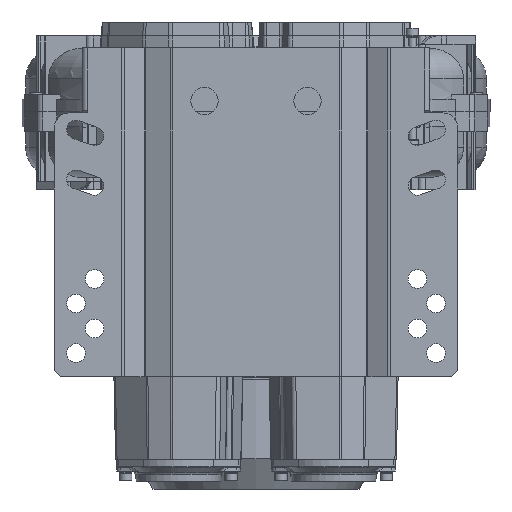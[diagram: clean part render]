
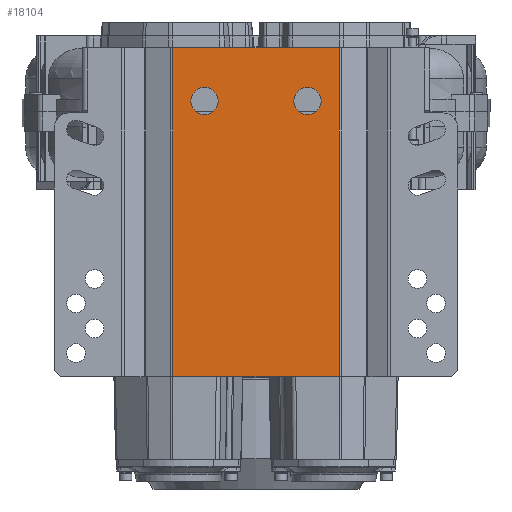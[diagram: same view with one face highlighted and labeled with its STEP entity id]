
A CAD part, front view. The second image highlights one B-rep face of the part: STEP entity #18104.
In plain terms, the highlighted planar face has unit normal (0, -1, 0).
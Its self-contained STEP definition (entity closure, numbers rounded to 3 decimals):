
#2606 = EDGE_LOOP ( 'NONE', ( #20237, #98813, #71517, #49458 ) ) ;
#3056 = AXIS2_PLACEMENT_3D ( 'NONE', #100717, #100157, #24133 ) ;
#3586 = LINE ( 'NONE', #88436, #6124 ) ;
#4277 = AXIS2_PLACEMENT_3D ( 'NONE', #99725, #17049, #40794 ) ;
#6124 = VECTOR ( 'NONE', #47128, 1000. ) ;
#6599 = ORIENTED_EDGE ( 'NONE', *, *, #54439, .T. ) ;
#10822 = LINE ( 'NONE', #43379, #75556 ) ;
#12779 = CARTESIAN_POINT ( 'NONE',  ( 30.5, -207., 137. ) ) ;
#16872 = VECTOR ( 'NONE', #87237, 1000. ) ;
#17049 = DIRECTION ( 'NONE',  ( 0., 1., 0. ) ) ;
#18104 = ADVANCED_FACE ( 'NONE', ( #32423, #67123, #50563 ), #66056, .T. ) ;
#20237 = ORIENTED_EDGE ( 'NONE', *, *, #64297, .F. ) ;
#20268 = CIRCLE ( 'NONE', #80129, 11. ) ;
#24133 = DIRECTION ( 'NONE',  ( -1., 0., 0. ) ) ;
#29471 = ORIENTED_EDGE ( 'NONE', *, *, #80882, .F. ) ;
#29602 = VERTEX_POINT ( 'NONE', #79238 ) ;
#30076 = CARTESIAN_POINT ( 'NONE',  ( 67.005, -207., -85. ) ) ;
#31221 = CARTESIAN_POINT ( 'NONE',  ( 67.005, -207., 180. ) ) ;
#32062 = CARTESIAN_POINT ( 'NONE',  ( -67.005, -207., 180. ) ) ;
#32423 = FACE_BOUND ( 'NONE', #55008, .T. ) ;
#36017 = LINE ( 'NONE', #88318, #16872 ) ;
#38796 = EDGE_CURVE ( 'NONE', #71006, #42949, #3586, .T. ) ;
#40270 = EDGE_CURVE ( 'NONE', #75254, #48819, #36017, .T. ) ;
#40794 = DIRECTION ( 'NONE',  ( -1., 0., 0. ) ) ;
#42949 = VERTEX_POINT ( 'NONE', #96047 ) ;
#43379 = CARTESIAN_POINT ( 'NONE',  ( 67.005, -207., -85. ) ) ;
#47128 = DIRECTION ( 'NONE',  ( 0., 0., -1. ) ) ;
#48819 = VERTEX_POINT ( 'NONE', #30076 ) ;
#49458 = ORIENTED_EDGE ( 'NONE', *, *, #38796, .T. ) ;
#50563 = FACE_BOUND ( 'NONE', #58460, .T. ) ;
#54439 = EDGE_CURVE ( 'NONE', #78413, #78413, #71171, .T. ) ;
#55008 = EDGE_LOOP ( 'NONE', ( #6599 ) ) ;
#57267 = DIRECTION ( 'NONE',  ( 0., -1., 0. ) ) ;
#58460 = EDGE_LOOP ( 'NONE', ( #29471 ) ) ;
#62948 = CARTESIAN_POINT ( 'NONE',  ( -41.5, -207., 137. ) ) ;
#64268 = VECTOR ( 'NONE', #107834, 1000. ) ;
#64297 = EDGE_CURVE ( 'NONE', #48819, #42949, #10822, .T. ) ;
#66056 = PLANE ( 'NONE',  #3056 ) ;
#67123 = FACE_OUTER_BOUND ( 'NONE', #2606, .T. ) ;
#71006 = VERTEX_POINT ( 'NONE', #32062 ) ;
#71171 = CIRCLE ( 'NONE', #4277, 11. ) ;
#71517 = ORIENTED_EDGE ( 'NONE', *, *, #80235, .T. ) ;
#75254 = VERTEX_POINT ( 'NONE', #79564 ) ;
#75556 = VECTOR ( 'NONE', #86879, 1000. ) ;
#78413 = VERTEX_POINT ( 'NONE', #12779 ) ;
#79238 = CARTESIAN_POINT ( 'NONE',  ( -30.5, -207., 137. ) ) ;
#79564 = CARTESIAN_POINT ( 'NONE',  ( 67.005, -207., 180. ) ) ;
#80129 = AXIS2_PLACEMENT_3D ( 'NONE', #62948, #57267, #91414 ) ;
#80235 = EDGE_CURVE ( 'NONE', #75254, #71006, #106208, .T. ) ;
#80882 = EDGE_CURVE ( 'NONE', #29602, #29602, #20268, .T. ) ;
#86879 = DIRECTION ( 'NONE',  ( -1., 0., 0. ) ) ;
#87237 = DIRECTION ( 'NONE',  ( 0., 0., -1. ) ) ;
#88318 = CARTESIAN_POINT ( 'NONE',  ( 67.005, -207., 180. ) ) ;
#88436 = CARTESIAN_POINT ( 'NONE',  ( -67.005, -207., 180. ) ) ;
#91414 = DIRECTION ( 'NONE',  ( 1., 0., 0. ) ) ;
#96047 = CARTESIAN_POINT ( 'NONE',  ( -67.005, -207., -85. ) ) ;
#98813 = ORIENTED_EDGE ( 'NONE', *, *, #40270, .F. ) ;
#99725 = CARTESIAN_POINT ( 'NONE',  ( 41.5, -207., 137. ) ) ;
#100157 = DIRECTION ( 'NONE',  ( 0., -1., 0. ) ) ;
#100717 = CARTESIAN_POINT ( 'NONE',  ( 67.005, -207., 180. ) ) ;
#106208 = LINE ( 'NONE', #31221, #64268 ) ;
#107834 = DIRECTION ( 'NONE',  ( -1., 0., 0. ) ) ;
